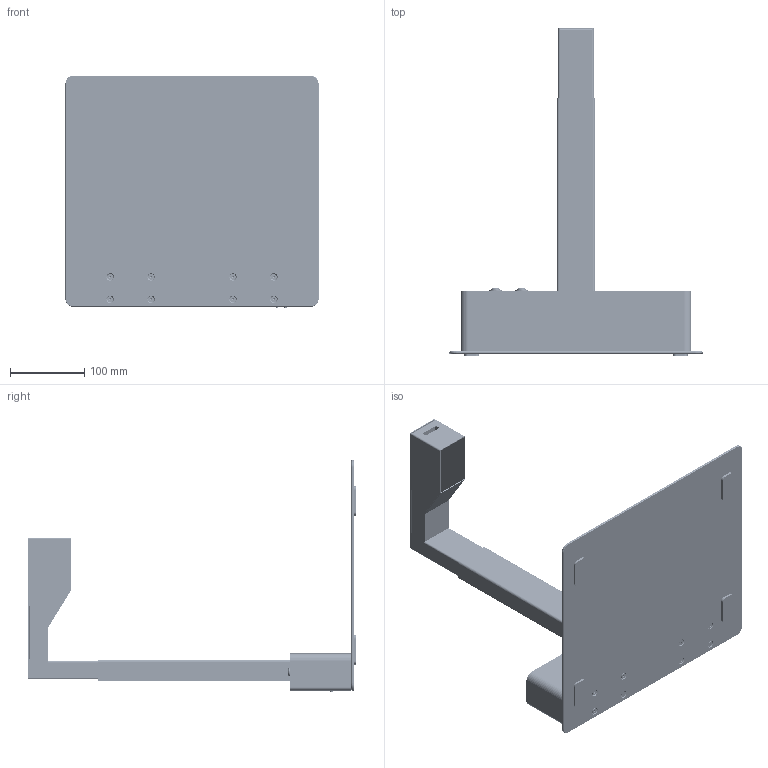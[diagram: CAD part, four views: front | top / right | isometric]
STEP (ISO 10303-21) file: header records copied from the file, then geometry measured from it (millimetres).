
FILE_DESCRIPTION((''),'2;1');
FILE_NAME('000-MED-CODEREADER-1_ASM','2024-11-22T20:02:59',('lizhoupeng'),(''),'CREO PARAMETRIC BY PTC INC, 2020044','CREO PARAMETRIC BY PTC INC, 2020044','');
FILE_SCHEMA(('AUTOMOTIVE_DESIGN { 1 0 10303 214 1 1 1 1 }'));
Products named in the file (47): DE-11-099574; DE-17-003865; DE-20-032934_ASM; DE-11-099576; 8002_TP4-2-9; 8002-CLS-M3-0; 8002-BSOS-M3-6; DE-11-099576_ASM; DE-11-099577; DE-11-099577_ASM; DE-11-099578; 8002-NUT-M4-SUS-GB-T13681; DE-11-099578_ASM; DE-11-099579; DE-11-099580; DE-11-099575_ASM; DE-11-100266_ASM; DE-11-099582; DE-11-099583; DE-11-099583_ASM; DE-11-099581_ASM; DE-11-099586; DE-11-099587; DE-11-099587_ASM; DE-11-099585_ASM; DE-11-099584_ASM; DE-11-099588; DE-14-064624; MV-23518-PCB; 101300118; 101300037; 101303247; 101301808; 100601044; 101400471; 101305980; MV-23518-PCBA_ASM; MV-23518REV10-202411051652; PCBA-ALL-MEDICAL_ASM; KDMG40008X-BOX-MED1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
Assembly tree (113 placements, depth 5):
  000-MED-CODEREADER-1_ASM
    DE-20-032934_ASM
      DE-11-099574
      DE-17-003865  x4
    DE-11-099575_ASM
      DE-11-099576_ASM
        DE-11-099576
        8002_TP4-2-9  x2
        8002-CLS-M3-0  x4
        8002-BSOS-M3-6  x4
      DE-11-099577_ASM
        DE-11-099577
        8002-CLS-M3-0  x2
      DE-11-099578_ASM
        DE-11-099578
        8002-NUT-M4-SUS-GB-T13681  x8
        8002-CLS-M3-0
      DE-11-099579
      DE-11-099580
    DE-11-100266_ASM
      DE-11-099576_ASM
        DE-11-099576
        8002_TP4-2-9  x2
        8002-CLS-M3-0  x4
        8002-BSOS-M3-6  x4
      DE-11-099577_ASM
        DE-11-099577
        8002-CLS-M3-0  x2
      DE-11-099578_ASM
        DE-11-099578
        8002-NUT-M4-SUS-GB-T13681  x8
        8002-CLS-M3-0
      DE-11-099579
      DE-11-099580
    DE-11-099581_ASM
      DE-11-099582
      DE-11-099583_ASM
        DE-11-099583
        8002-CLS-M3-0  x6
    DE-11-099584_ASM
      DE-11-099585_ASM
        DE-11-099586
        DE-11-099587_ASM
          DE-11-099587
          8002-BSOS-M3-6  x4
    DE-11-099588
    DE-14-064624
    PCBA-ALL-MEDICAL_ASM
      MV-23518-PCBA_ASM
        MV-23518-PCB
        101300118
        101300037
        101303247
        101301808
        100601044
        101400471  x2
        101305980
      MV-23518REV10-202411051652
    KDMG40008X-BOX-MED_ASM
      KDMG40008X-BOX-MED1
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Bounding box: 340 x 440.5 x 311.8 mm (x, y, z)
Volume: 785494.7 mm3; surface area: 974806.6 mm2
Topology: 130 solids, 223 shells, 14711 faces, 42076 edges, 28361 vertices
Faces by surface type: plane 9683, cylinder 4070, cone 440, bspline 182, torus 158, sphere 110, extrusion 68
Entity records: 470064 total; most frequent: CARTESIAN_POINT 84286, DIRECTION 65196, ORIENTED_EDGE 65002, EDGE_CURVE 34069, VECTOR 27062, LINE 26994, VERTEX_POINT 21522, AXIS2_PLACEMENT_3D 19067
